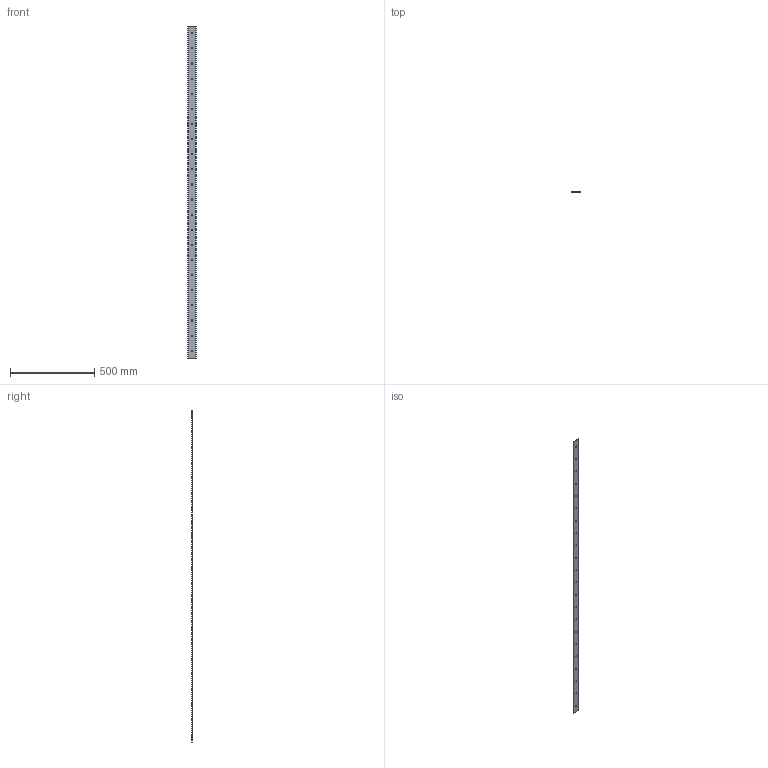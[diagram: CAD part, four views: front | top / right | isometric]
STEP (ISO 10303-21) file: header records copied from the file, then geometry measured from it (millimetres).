
FILE_DESCRIPTION(('STEP AP203'),'1');
FILE_NAME('slide_s50l1976p1.stp','2022-07-01T06:19:43',('TraceParts'),('TraceParts S.A.'),'Spatial InterOp 3D',' ',' ');
FILE_SCHEMA(('CONFIG_CONTROL_DESIGN'));
Length unit declared in the file: millimetre
Products named in the file (1): 1
Bounding box: 49.69 x 4.78 x 1976 mm (x, y, z)
Volume: 442654.1 mm3; surface area: 205055.7 mm2
Topology: 1 solids, 1 shells, 56 faces, 162 edges, 108 vertices
Faces by surface type: cylinder 48, plane 8
Entity records: 2034 total; most frequent: DIRECTION 372, CARTESIAN_POINT 327, ORIENTED_EDGE 324, EDGE_CURVE 162, AXIS2_PLACEMENT_3D 153, VERTEX_POINT 108, EDGE_LOOP 100, CIRCLE 96
